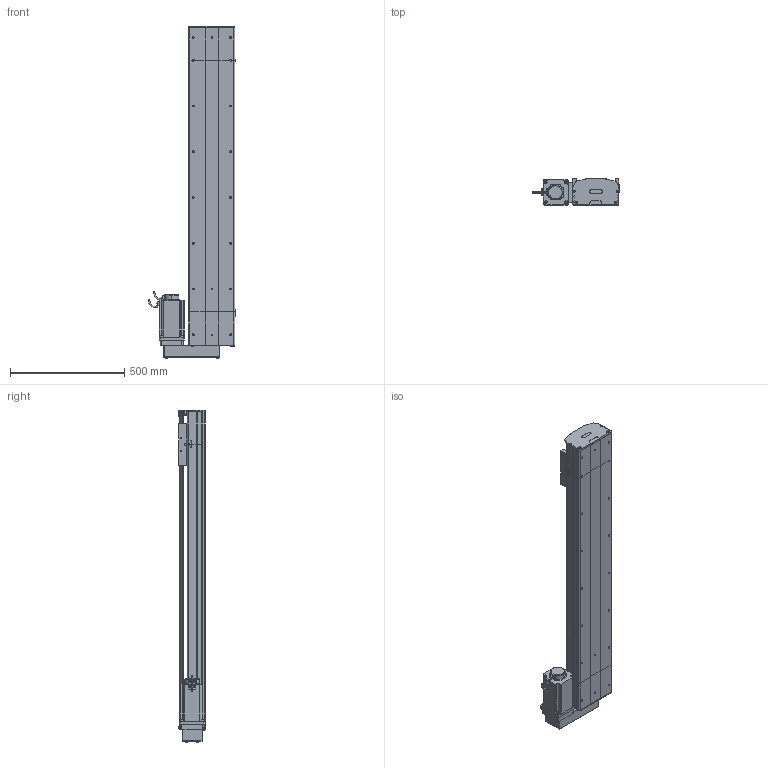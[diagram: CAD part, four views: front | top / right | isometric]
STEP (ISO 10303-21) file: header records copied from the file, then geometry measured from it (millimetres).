
FILE_DESCRIPTION (( 'STEP AP214' ), '1' );
FILE_NAME ('D20 TSH BL S1100.STEP', '2010-06-30T08:41:00', ( 'Conseil Régional Haute-Normandie' ), ( 'Conseil Régional Haute-Normandie' ), 'SwSTEP 2.0', 'SolidWorks 2010', '' );
FILE_SCHEMA (( 'AUTOMOTIVE_DESIGN' ));
Length unit declared in the file: millimetre
Products named in the file (35): clavette; couvercle tail D20_Default; plaque de  bout tail D20_Default; Arbre+rail tail D20; chariot D20S_Default; vis M5 L25_Default; vis M5 L12_Default; guide D20; Chariot D20; vis M5 L70_Default; renvoi  BR_Default; tete d''axe haut D20; vis M5 L8 90°_Default; 2 vis M5 L12_Default; tail D20 +100_Default; vis M8 L12_Default; tete d''axe bas D20; corpl tail D20 +100_Default; couvercle head l D20_Default; Arbre+rail head D20; plaque de  bout head BR D20_Default; Conecteur_Default; Conecteur2_Default; corpl head MD D20_Default; head BL D20_Default; rail + arbre  D20 S1100; Plaque racord D20_Default; avant 110BLDC170A-630x; D20 TSH BL S1100; codeur 110BLDC170A-630x; corps 110BLDC170A-630x; Moteur motionking 110BLDC170A-640x; couvercle D20 S1100_Default; corp D20 S1100_Default; course D20 L1100_Default
Assembly tree (59 placements, depth 4):
  D20 TSH BL S1100
    chariot D20S_Default
      guide D20  x2
      vis M5 L12_Default  x4
      Chariot D20
    head BL D20_Default
      corpl head MD D20_Default
      vis M5 L12_Default  x2
      2 vis M5 L12_Default  x6
      Arbre+rail head D20
      vis M8 L12_Default  x4
      vis M5 L70_Default  x4
      couvercle head l D20_Default
      vis M5 L25_Default  x2
      renvoi  BR_Default
      Moteur motionking 110BLDC170A-640x
        clavette
        avant 110BLDC170A-630x
        codeur 110BLDC170A-630x
        Conecteur_Default
        corps 110BLDC170A-630x
        Conecteur2_Default
      Plaque racord D20_Default
      plaque de  bout head BR D20_Default
    course D20 L1100_Default
      couvercle D20 S1100_Default
      rail + arbre  D20 S1100
      corp D20 S1100_Default
    tail D20 +100_Default
      Arbre+rail tail D20
      plaque de  bout tail D20_Default
      2 vis M5 L12_Default  x4
      vis M5 L25_Default  x2
      corpl tail D20 +100_Default
      vis M5 L8 90°_Default  x2
      tete d''axe bas D20
      couvercle tail D20_Default
      tete d''axe haut D20
Bounding box: 380 x 115.7 x 1451.7 mm (x, y, z)
Volume: 13865761.9 mm3; surface area: 2911133.8 mm2
Topology: 84 solids, 84 shells, 2350 faces, 5933 edges, 3833 vertices
Faces by surface type: plane 1390, cylinder 672, bspline 136, torus 77, cone 71, sphere 4
Entity records: 77014 total; most frequent: CARTESIAN_POINT 25324, ORIENTED_EDGE 9162, DIRECTION 8610, EDGE_CURVE 4581, VERTEX_POINT 3015, VECTOR 3000, LINE 3000, AXIS2_PLACEMENT_3D 2805
